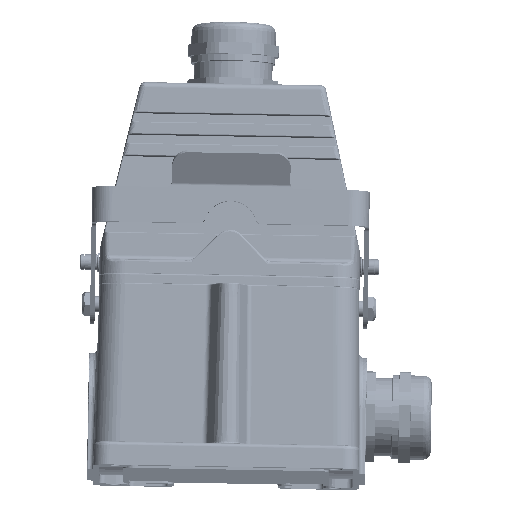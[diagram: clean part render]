
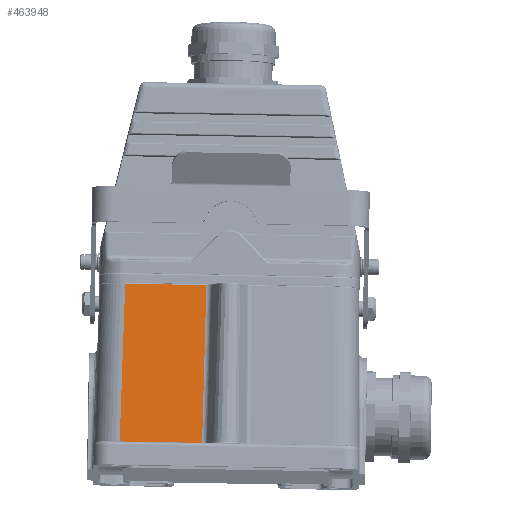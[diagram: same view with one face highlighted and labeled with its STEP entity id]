
A CAD part, top view. The second image highlights one B-rep face of the part: STEP entity #463948.
In plain terms, the highlighted planar face has unit normal (0.002, 0.106, 0.994) as drawn and (0, -1, 0.017) by its records, which use the part's own axes.
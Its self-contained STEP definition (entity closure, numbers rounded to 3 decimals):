
#31965 = AXIS2_PLACEMENT_3D ( 'NONE', #417125, #617338, #367844 ) ;
#49178 = VERTEX_POINT ( 'NONE', #440619 ) ;
#65583 = PLANE ( 'NONE',  #31965 ) ;
#87674 = EDGE_CURVE ( 'NONE', #49178, #535132, #166628, .T. ) ;
#93710 = CARTESIAN_POINT ( 'NONE',  ( -52.769, -44.509, 33.44 ) ) ;
#99678 = CARTESIAN_POINT ( 'NONE',  ( -12.15, -45.446, -20.244 ) ) ;
#166628 = LINE ( 'NONE', #413201, #523864 ) ;
#175404 = B_SPLINE_CURVE_WITH_KNOTS ( 'NONE', 3,
 ( #389548, #553538, #543783, #93710 ),
 .UNSPECIFIED., .F., .F.,
 ( 4, 4 ),
 ( 0., 1. ),
 .UNSPECIFIED. ) ;
#187047 = DIRECTION ( 'NONE',  ( 1., 0., 0. ) ) ;
#211123 = VERTEX_POINT ( 'NONE', #478629 ) ;
#236417 = CARTESIAN_POINT ( 'NONE',  ( -54.503, -44.509, 33.44 ) ) ;
#259225 = ORIENTED_EDGE ( 'NONE', *, *, #349710, .F. ) ;
#303011 = EDGE_LOOP ( 'NONE', ( #636692, #556550, #259225, #365552 ) ) ;
#315203 = FACE_OUTER_BOUND ( 'NONE', #303011, .T. ) ;
#349710 = EDGE_CURVE ( 'NONE', #49178, #211123, #175404, .T. ) ;
#365552 = ORIENTED_EDGE ( 'NONE', *, *, #87674, .T. ) ;
#367844 = DIRECTION ( 'NONE',  ( -1., 0., 0. ) ) ;
#389548 = CARTESIAN_POINT ( 'NONE',  ( -54.175, -45.914, -47.086 ) ) ;
#391897 = B_SPLINE_CURVE_WITH_KNOTS ( 'NONE', 3,
 ( #441494, #99678, #500401, #395500 ),
 .UNSPECIFIED., .F., .F.,
 ( 4, 4 ),
 ( 0., 1. ),
 .UNSPECIFIED. ) ;
#395500 = CARTESIAN_POINT ( 'NONE',  ( -11.609, -44.509, 33.44 ) ) ;
#413201 = CARTESIAN_POINT ( 'NONE',  ( -54.52, -45.914, -47.086 ) ) ;
#417125 = CARTESIAN_POINT ( 'NONE',  ( -70.954, -44.5, 33.931 ) ) ;
#436240 = VECTOR ( 'NONE', #187047, 1000. ) ;
#438334 = EDGE_CURVE ( 'NONE', #211123, #638162, #486021, .T. ) ;
#440619 = CARTESIAN_POINT ( 'NONE',  ( -54.175, -45.914, -47.086 ) ) ;
#441494 = CARTESIAN_POINT ( 'NONE',  ( -12.421, -45.914, -47.086 ) ) ;
#463948 = ADVANCED_FACE ( 'NONE', ( #315203 ), #65583, .T. ) ;
#478629 = CARTESIAN_POINT ( 'NONE',  ( -52.769, -44.509, 33.44 ) ) ;
#486021 = LINE ( 'NONE', #236417, #436240 ) ;
#500401 = CARTESIAN_POINT ( 'NONE',  ( -11.88, -44.977, 6.598 ) ) ;
#523864 = VECTOR ( 'NONE', #524659, 1000. ) ;
#524659 = DIRECTION ( 'NONE',  ( 1., 0., 0. ) ) ;
#535132 = VERTEX_POINT ( 'NONE', #582466 ) ;
#543783 = CARTESIAN_POINT ( 'NONE',  ( -53.238, -44.977, 6.598 ) ) ;
#553538 = CARTESIAN_POINT ( 'NONE',  ( -53.707, -45.446, -20.244 ) ) ;
#556550 = ORIENTED_EDGE ( 'NONE', *, *, #438334, .F. ) ;
#582466 = CARTESIAN_POINT ( 'NONE',  ( -12.421, -45.914, -47.086 ) ) ;
#617338 = DIRECTION ( 'NONE',  ( 0., -1., 0.017 ) ) ;
#617658 = CARTESIAN_POINT ( 'NONE',  ( -11.609, -44.509, 33.44 ) ) ;
#636531 = EDGE_CURVE ( 'NONE', #535132, #638162, #391897, .T. ) ;
#636692 = ORIENTED_EDGE ( 'NONE', *, *, #636531, .T. ) ;
#638162 = VERTEX_POINT ( 'NONE', #617658 ) ;
